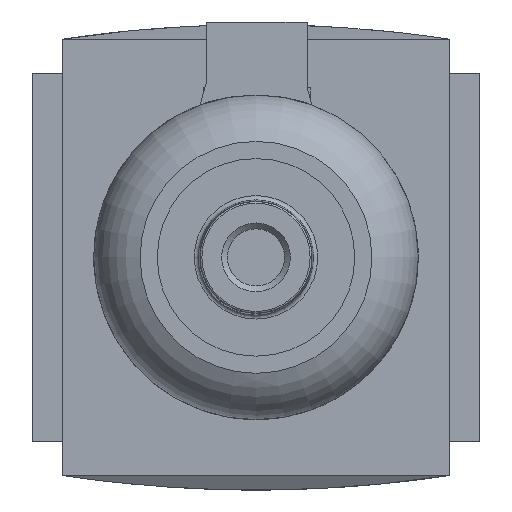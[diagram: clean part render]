
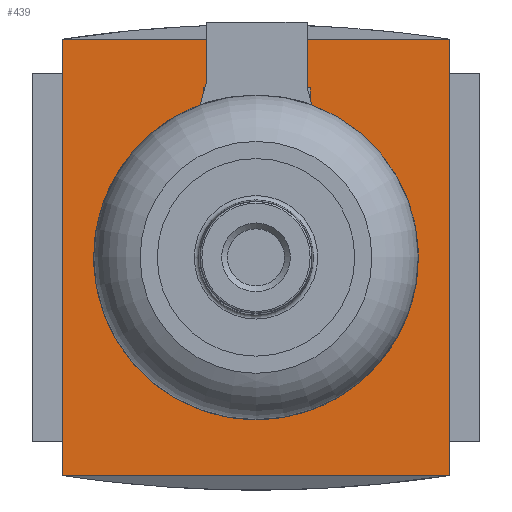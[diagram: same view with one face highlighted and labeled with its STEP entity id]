
A CAD part, front view. The second image highlights one B-rep face of the part: STEP entity #439.
In plain terms, the highlighted planar face has unit normal (0, -1, 0).
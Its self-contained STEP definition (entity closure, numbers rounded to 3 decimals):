
#439 = ADVANCED_FACE( '', ( #1061 ), #1062, .F. );
#1061 = FACE_OUTER_BOUND( '', #1895, .T. );
#1062 = PLANE( '', #1896 );
#1895 = EDGE_LOOP( '', ( #3091, #3092, #3093, #3094 ) );
#1896 = AXIS2_PLACEMENT_3D( '', #3095, #3096, #3097 );
#3091 = ORIENTED_EDGE( '', *, *, #5228, .F. );
#3092 = ORIENTED_EDGE( '', *, *, #5266, .T. );
#3093 = ORIENTED_EDGE( '', *, *, #5267, .F. );
#3094 = ORIENTED_EDGE( '', *, *, #5268, .T. );
#3095 = CARTESIAN_POINT( '', ( 0., -31., 122.903 ) );
#3096 = DIRECTION( '', ( 0., 1., 0. ) );
#3097 = DIRECTION( '', ( 0., 0., 1. ) );
#5228 = EDGE_CURVE( '', #6386, #6036, #6387, .T. );
#5266 = EDGE_CURVE( '', #6386, #6450, #6451, .T. );
#5267 = EDGE_CURVE( '', #6032, #6450, #6452, .T. );
#5268 = EDGE_CURVE( '', #6032, #6036, #6453, .T. );
#6032 = VERTEX_POINT( '', #7483 );
#6036 = VERTEX_POINT( '', #7488 );
#6386 = VERTEX_POINT( '', #7975 );
#6387 = LINE( '', #7976, #7977 );
#6450 = VERTEX_POINT( '', #8063 );
#6451 = LINE( '', #8064, #8065 );
#6452 = LINE( '', #8066, #8067 );
#6453 = LINE( '', #8068, #8069 );
#7483 = CARTESIAN_POINT( '', ( 22.5, -31., 25.4 ) );
#7488 = CARTESIAN_POINT( '', ( -22.5, -31., 25.4 ) );
#7975 = CARTESIAN_POINT( '', ( -22.5, -31., -25.4 ) );
#7976 = CARTESIAN_POINT( '', ( -22.5, -31., -25.4 ) );
#7977 = VECTOR( '', #9523, 1000. );
#8063 = CARTESIAN_POINT( '', ( 22.5, -31., -25.4 ) );
#8064 = CARTESIAN_POINT( '', ( 0., -31., -25.4 ) );
#8065 = VECTOR( '', #9574, 1000. );
#8066 = CARTESIAN_POINT( '', ( 22.5, -31., 25.4 ) );
#8067 = VECTOR( '', #9575, 1000. );
#8068 = CARTESIAN_POINT( '', ( 0., -31., 25.4 ) );
#8069 = VECTOR( '', #9576, 1000. );
#9523 = DIRECTION( '', ( 0., 0., 1. ) );
#9574 = DIRECTION( '', ( 1., 0., 0. ) );
#9575 = DIRECTION( '', ( 0., 0., -1. ) );
#9576 = DIRECTION( '', ( -1., 0., 0. ) );
